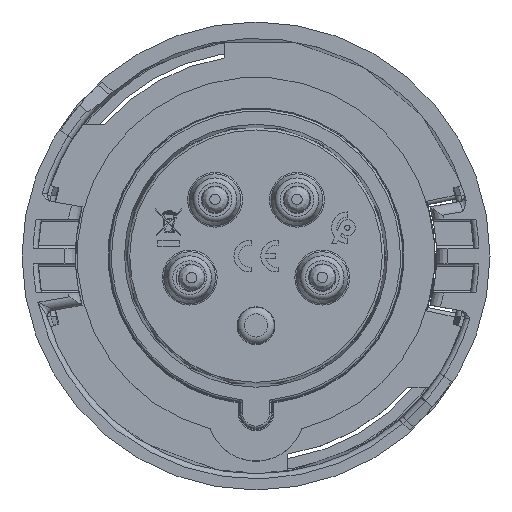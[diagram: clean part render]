
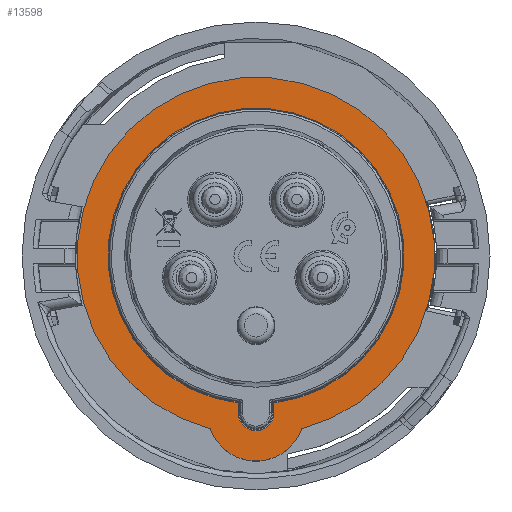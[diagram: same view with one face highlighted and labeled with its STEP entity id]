
A CAD part, top view. The second image highlights one B-rep face of the part: STEP entity #13598.
In plain terms, the highlighted planar face has unit normal (0, 0, 1).
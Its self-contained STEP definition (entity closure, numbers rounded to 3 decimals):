
#7706=FACE_BOUND('',#23533,.T.);
#7707=FACE_BOUND('',#23534,.T.);
#9719=CIRCLE('',#75747,9.2);
#9720=CIRCLE('',#75750,3.4);
#9722=CIRCLE('',#75754,34.);
#9725=CIRCLE('',#75758,28.15);
#13598=ADVANCED_FACE('',(#7706,#7707),#16026,.T.);
#16026=PLANE('',#75761);
#23533=EDGE_LOOP('',(#40460,#40461));
#23534=EDGE_LOOP('',(#40462,#40463,#40464,#40465));
#40460=ORIENTED_EDGE('',*,*,#61088,.T.);
#40461=ORIENTED_EDGE('',*,*,#61100,.T.);
#40462=ORIENTED_EDGE('',*,*,#61094,.F.);
#40463=ORIENTED_EDGE('',*,*,#61092,.F.);
#40464=ORIENTED_EDGE('',*,*,#61103,.F.);
#40465=ORIENTED_EDGE('',*,*,#61097,.F.);
#51679=VERTEX_POINT('',#149513);
#51680=VERTEX_POINT('',#149515);
#51683=VERTEX_POINT('',#149522);
#51684=VERTEX_POINT('',#149524);
#51685=VERTEX_POINT('',#149528);
#51687=VERTEX_POINT('',#149534);
#61088=EDGE_CURVE('',#51680,#51679,#9719,.T.);
#61092=EDGE_CURVE('',#51683,#51684,#67029,.T.);
#61094=EDGE_CURVE('',#51684,#51685,#9720,.T.);
#61097=EDGE_CURVE('',#51685,#51687,#67032,.T.);
#61100=EDGE_CURVE('',#51679,#51680,#9722,.T.);
#61103=EDGE_CURVE('',#51687,#51683,#9725,.T.);
#67029=LINE('',#149523,#70823);
#67032=LINE('',#149533,#70826);
#70823=VECTOR('',#89609,1.);
#70826=VECTOR('',#89620,1.);
#75747=AXIS2_PLACEMENT_3D('',#149514,#89602,#89603);
#75750=AXIS2_PLACEMENT_3D('',#149527,#89613,#89614);
#75754=AXIS2_PLACEMENT_3D('',#149539,#89625,#89626);
#75758=AXIS2_PLACEMENT_3D('',#149543,#89633,#89634);
#75761=AXIS2_PLACEMENT_3D('',#149546,#89639,#89640);
#89602=DIRECTION('',(0.,0.,1.));
#89603=DIRECTION('',(1.,0.,0.));
#89609=DIRECTION('',(0.,-1.,0.));
#89613=DIRECTION('',(0.,0.,1.));
#89614=DIRECTION('',(1.,0.,0.));
#89620=DIRECTION('',(0.,1.,0.));
#89625=DIRECTION('',(0.,0.,1.));
#89626=DIRECTION('',(1.,0.,0.));
#89633=DIRECTION('',(0.,0.,1.));
#89634=DIRECTION('',(1.,0.,0.));
#89639=DIRECTION('',(0.,0.,1.));
#89640=DIRECTION('',(-1.,0.,0.));
#149513=CARTESIAN_POINT('',(8.671,-32.876,-33.2));
#149514=CARTESIAN_POINT('',(0.,-29.8,-33.2));
#149515=CARTESIAN_POINT('',(-8.671,-32.876,-33.2));
#149522=CARTESIAN_POINT('',(-3.4,-27.944,-33.2));
#149523=CARTESIAN_POINT('',(-3.4,-27.944,-33.2));
#149524=CARTESIAN_POINT('',(-3.4,-29.8,-33.2));
#149527=CARTESIAN_POINT('',(0.,-29.8,-33.2));
#149528=CARTESIAN_POINT('',(3.4,-29.8,-33.2));
#149533=CARTESIAN_POINT('',(3.4,-29.8,-33.2));
#149534=CARTESIAN_POINT('',(3.4,-27.944,-33.2));
#149539=CARTESIAN_POINT('',(0.,0.,-33.2));
#149543=CARTESIAN_POINT('',(0.,0.,-33.2));
#149546=CARTESIAN_POINT('',(-40.8,-46.3,-33.2));
